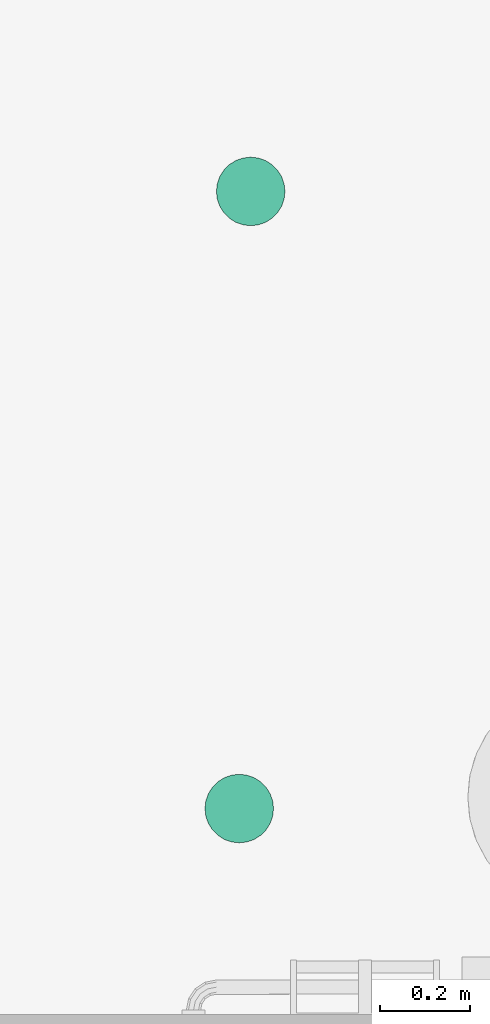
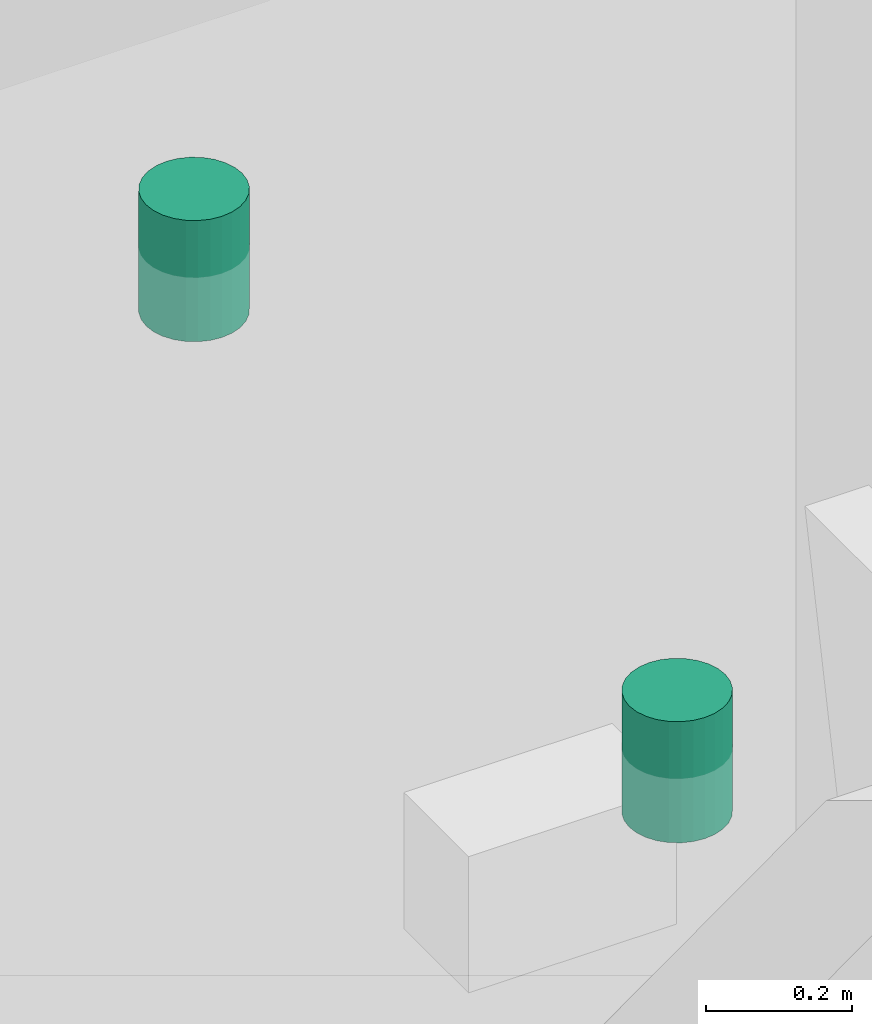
# One storey, part 4 of 7: 2 flow terminals.
"""IFC2X3 building model written with IfcOpenShell, lengths in feet."""

from ifc_helpers import new_model, entity, si_unit, converted_unit, derived_unit, direction, frame, frame_2d, origin, place, context, subcontext, project, spatial, circle, extrude, source, transform, mapped, type_object, type_shapes, element, save


model = new_model("IFC2X3")

# Units and contexts
model_context = context("Model", 3, precision=0.0001, world=origin(), true_north=direction((6.12303176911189e-17, 1.0)))
body_context = subcontext(model_context, "Body", "Model", "MODEL_VIEW")
ifc_project = project(units=[converted_unit("LENGTHUNIT", "FOOT", entity("IfcRatioMeasure", 0.3048), si_unit("LENGTHUNIT", "METRE"), dimensions=[1, 0, 0, 0, 0, 0, 0]), converted_unit("AREAUNIT", "SQUARE FOOT", entity("IfcRatioMeasure", 0.09290304), si_unit("AREAUNIT", "SQUARE_METRE"), dimensions=[2, 0, 0, 0, 0, 0, 0]), converted_unit("VOLUMEUNIT", "CUBIC FOOT", entity("IfcRatioMeasure", 0.028316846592), si_unit("VOLUMEUNIT", "CUBIC_METRE"), dimensions=[3, 0, 0, 0, 0, 0, 0]), converted_unit("PLANEANGLEUNIT", "DEGREE", entity("IfcRatioMeasure", 0.0174532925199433), si_unit("PLANEANGLEUNIT", "RADIAN"), dimensions=[0, 0, 0, 0, 0, 0, 0]), si_unit("MASSUNIT", "GRAM", prefix="KILO"), derived_unit("MASSDENSITYUNIT", [(si_unit("MASSUNIT", "GRAM", prefix="KILO"), 1), (si_unit("LENGTHUNIT", "METRE"), -3)]), si_unit("TIMEUNIT", "SECOND"), si_unit("FREQUENCYUNIT", "HERTZ"), si_unit("THERMODYNAMICTEMPERATUREUNIT", "DEGREE_CELSIUS"), derived_unit("THERMALTRANSMITTANCEUNIT", [(si_unit("MASSUNIT", "GRAM", prefix="KILO"), 1), (si_unit("THERMODYNAMICTEMPERATUREUNIT", "KELVIN"), -1), (si_unit("TIMEUNIT", "SECOND"), -3)]), derived_unit("VOLUMETRICFLOWRATEUNIT", [(si_unit("LENGTHUNIT", "METRE"), 3), (si_unit("TIMEUNIT", "SECOND"), -1)]), si_unit("ELECTRICCURRENTUNIT", "AMPERE"), si_unit("ELECTRICVOLTAGEUNIT", "VOLT"), si_unit("POWERUNIT", "WATT"), si_unit("FORCEUNIT", "NEWTON"), si_unit("ILLUMINANCEUNIT", "LUX"), si_unit("LUMINOUSFLUXUNIT", "LUMEN"), si_unit("LUMINOUSINTENSITYUNIT", "CANDELA"), derived_unit("USERDEFINED", [(si_unit("MASSUNIT", "GRAM", prefix="KILO"), -1), (si_unit("LENGTHUNIT", "METRE"), -2), (si_unit("TIMEUNIT", "SECOND"), 3), (si_unit("LUMINOUSFLUXUNIT", "LUMEN"), 1)]), derived_unit("LINEARVELOCITYUNIT", [(si_unit("LENGTHUNIT", "METRE"), 1), (si_unit("TIMEUNIT", "SECOND"), -1)]), si_unit("PRESSUREUNIT", "PASCAL"), derived_unit("USERDEFINED", [(si_unit("LENGTHUNIT", "METRE"), -2), (si_unit("MASSUNIT", "GRAM", prefix="KILO"), 1), (si_unit("TIMEUNIT", "SECOND"), -2)])], contexts=[model_context])

# Site, building, storey, space
site_placement = place(None, origin())
site = spatial("IfcSite", under=ifc_project, at=site_placement, Name="Default", CompositionType="ELEMENT")
building_placement = place(site_placement, origin())
building = spatial("IfcBuilding", under=site, at=building_placement, Name="OUTPATIENT / PACT CLINIC (Ch. 265)", CompositionType="ELEMENT")
storey_placement = place(building_placement, origin())
storey = spatial("IfcBuildingStorey", under=building, at=storey_placement, Name="DATUM", CompositionType="ELEMENT", Elevation=0.0)
space_placement = place(storey_placement, origin())
space = spatial("IfcSpace", under=storey, at=space_placement, Name="TNPG1", CompositionType="ELEMENT", InteriorOrExteriorSpace="INTERNAL")

# Flow terminals
light_fixture_type = type_object("IfcLightFixtureType", Name="6\"", PredefinedType="NOTDEFINED")
shared_shape = source(origin(), body_context, "Body", "SweptSolid", [
    extrude(circle(Radius=0.25, at=frame_2d((0.0, -3.88578058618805e-16), x_axis=(1.0, 0.0))), frame((0.132132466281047, -0.159583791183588, 7.99242651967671)), (0.0, 0.0, 1.0), 0.666666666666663),
])
type_shapes(light_fixture_type, [shared_shape])
for number, where in (
    (1, (101.26145590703, -854.99907319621, 1.00757348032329)),
    (2, (101.178122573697, -859.499073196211, 1.00757348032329)),
):
    element("IfcFlowTerminal", number, at=place(space_placement, frame(where)), inside=space, type_object=light_fixture_type, Name="Downlight - Recessed Can:6\"", ObjectType="6\"", context=body_context, shape_type="MappedRepresentation", body=[
        mapped(shared_shape, transform((0.0, 0.0, 0.0), scale=1.0)),
    ])

save(model, "model.ifc")
